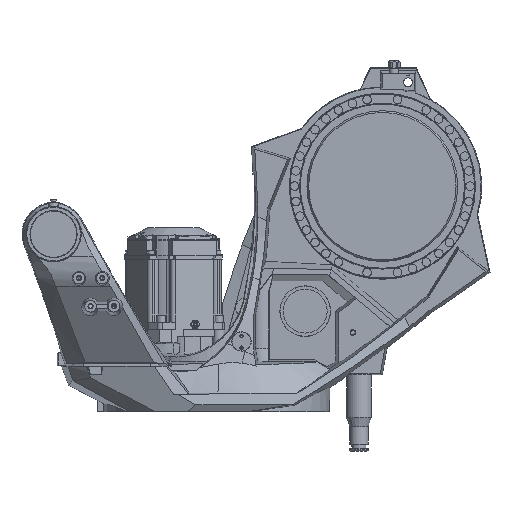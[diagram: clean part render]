
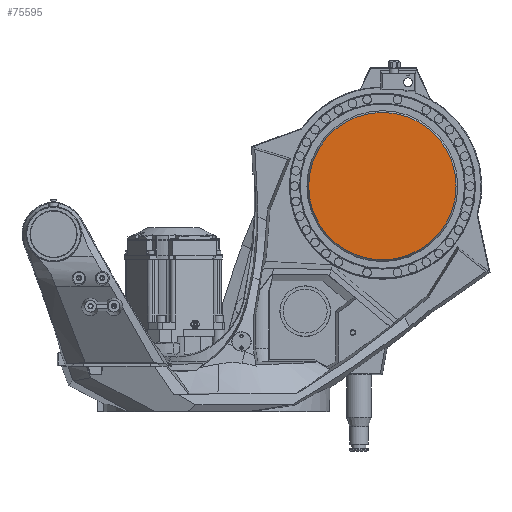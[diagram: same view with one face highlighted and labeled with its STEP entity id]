
A CAD part, front view. The second image highlights one B-rep face of the part: STEP entity #75595.
In plain terms, the highlighted planar face has unit normal (0, -1, 0).
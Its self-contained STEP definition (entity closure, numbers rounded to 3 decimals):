
#14360 = AXIS2_PLACEMENT_3D ( 'NONE', #64418, #75391, #101584 ) ;
#15057 = AXIS2_PLACEMENT_3D ( 'NONE', #64548, #90853, #101131 ) ;
#44976 = FACE_OUTER_BOUND ( 'NONE', #49248, .T. ) ;
#45340 = VERTEX_POINT ( 'NONE', #73312 ) ;
#49248 = EDGE_LOOP ( 'NONE', ( #80511 ) ) ;
#52241 = CIRCLE ( 'NONE', #15057, 157.5 ) ;
#64418 = CARTESIAN_POINT ( 'NONE',  ( 350., -137., 623.077 ) ) ;
#64548 = CARTESIAN_POINT ( 'NONE',  ( 350., -137., 780. ) ) ;
#73312 = CARTESIAN_POINT ( 'NONE',  ( 350., -137., 937.5 ) ) ;
#73563 = PLANE ( 'NONE',  #14360 ) ;
#75391 = DIRECTION ( 'NONE',  ( 0., 1., 0. ) ) ;
#75595 = ADVANCED_FACE ( 'NONE', ( #44976 ), #73563, .F. ) ;
#80511 = ORIENTED_EDGE ( 'NONE', *, *, #114031, .F. ) ;
#90853 = DIRECTION ( 'NONE',  ( 0., 1., 0. ) ) ;
#101131 = DIRECTION ( 'NONE',  ( 0., 0., 1. ) ) ;
#101584 = DIRECTION ( 'NONE',  ( 0., 0., 1. ) ) ;
#114031 = EDGE_CURVE ( 'NONE', #45340, #45340, #52241, .T. ) ;
